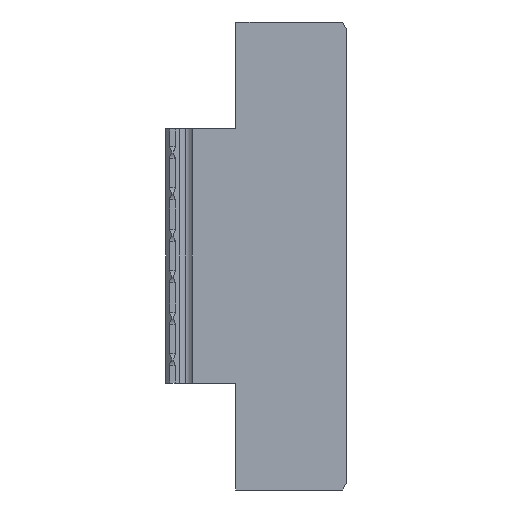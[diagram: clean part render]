
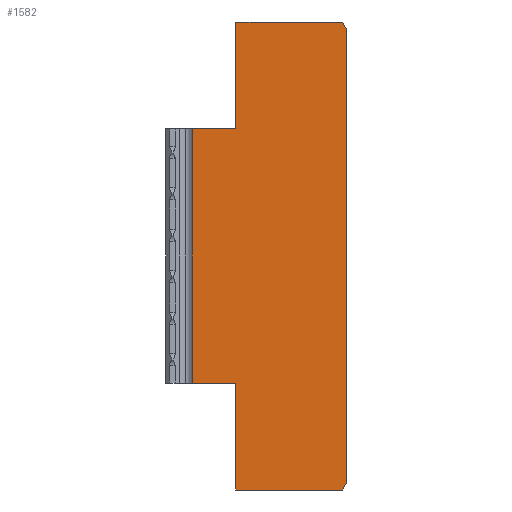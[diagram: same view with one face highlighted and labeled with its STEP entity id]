
A CAD part, left-side view. The second image highlights one B-rep face of the part: STEP entity #1582.
In plain terms, the highlighted planar face has unit normal (-1, 0, 0).
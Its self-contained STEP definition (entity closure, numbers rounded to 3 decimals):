
#13 = ORIENTED_EDGE ( 'NONE', *, *, #12600, .F. ) ;
#82 = PLANE ( 'NONE',  #4792 ) ;
#159 = EDGE_CURVE ( 'NONE', #5211, #3577, #2909, .T. ) ;
#362 = LINE ( 'NONE', #10386, #6213 ) ;
#600 = ORIENTED_EDGE ( 'NONE', *, *, #159, .F. ) ;
#613 = VERTEX_POINT ( 'NONE', #3405 ) ;
#696 = LINE ( 'NONE', #3609, #11416 ) ;
#776 = CARTESIAN_POINT ( 'NONE',  ( -20.5, 1., -21. ) ) ;
#864 = DIRECTION ( 'NONE',  ( 0., 0., 1. ) ) ;
#948 = CARTESIAN_POINT ( 'NONE',  ( -20.5, -22., 35. ) ) ;
#1099 = LINE ( 'NONE', #776, #12622 ) ;
#1355 = LINE ( 'NONE', #3731, #2802 ) ;
#1446 = CARTESIAN_POINT ( 'NONE',  ( -20.5, -5.5, -19. ) ) ;
#1519 = DIRECTION ( 'NONE',  ( 0., 0., -1. ) ) ;
#1566 = ORIENTED_EDGE ( 'NONE', *, *, #8063, .T. ) ;
#1582 = ADVANCED_FACE ( 'NONE', ( #7214 ), #82, .F. ) ;
#2180 = LINE ( 'NONE', #12309, #10118 ) ;
#2732 = VERTEX_POINT ( 'NONE', #10716 ) ;
#2802 = VECTOR ( 'NONE', #10992, 1000. ) ;
#2909 = LINE ( 'NONE', #11820, #6006 ) ;
#3109 = CARTESIAN_POINT ( 'NONE',  ( -20.5, -22., -34. ) ) ;
#3191 = EDGE_CURVE ( 'NONE', #2732, #8011, #362, .T. ) ;
#3395 = DIRECTION ( 'NONE',  ( 0., -1., 0. ) ) ;
#3405 = CARTESIAN_POINT ( 'NONE',  ( -20.5, -5.5, 35. ) ) ;
#3577 = VERTEX_POINT ( 'NONE', #9000 ) ;
#3609 = CARTESIAN_POINT ( 'NONE',  ( -20.5, -5.5, 35. ) ) ;
#3654 = DIRECTION ( 'NONE',  ( 0., 0., 1. ) ) ;
#3731 = CARTESIAN_POINT ( 'NONE',  ( -20.5, -22., 19. ) ) ;
#3813 = VECTOR ( 'NONE', #4319, 1000. ) ;
#4028 = VECTOR ( 'NONE', #11453, 1000. ) ;
#4319 = DIRECTION ( 'NONE',  ( 0., 0.5, 0.866 ) ) ;
#4651 = ORIENTED_EDGE ( 'NONE', *, *, #9631, .F. ) ;
#4792 = AXIS2_PLACEMENT_3D ( 'NONE', #948, #10345, #9303 ) ;
#5154 = DIRECTION ( 'NONE',  ( 0., -1., 0. ) ) ;
#5211 = VERTEX_POINT ( 'NONE', #13190 ) ;
#5503 = LINE ( 'NONE', #10404, #4028 ) ;
#5648 = EDGE_LOOP ( 'NONE', ( #6664, #9018, #7927, #10289, #13, #8366, #7797, #600, #1566, #4651 ) ) ;
#5784 = CARTESIAN_POINT ( 'NONE',  ( -20.5, -22., -19. ) ) ;
#6006 = VECTOR ( 'NONE', #1519, 1000. ) ;
#6112 = DIRECTION ( 'NONE',  ( 0., -0.5, 0.866 ) ) ;
#6131 = VECTOR ( 'NONE', #8944, 1000. ) ;
#6175 = CARTESIAN_POINT ( 'NONE',  ( -20.5, -21.423, -35. ) ) ;
#6213 = VECTOR ( 'NONE', #3395, 1000. ) ;
#6330 = CARTESIAN_POINT ( 'NONE',  ( -20.5, 1., 19. ) ) ;
#6449 = CARTESIAN_POINT ( 'NONE',  ( -20.5, -21.423, 35. ) ) ;
#6594 = EDGE_CURVE ( 'NONE', #9623, #7625, #10671, .T. ) ;
#6664 = ORIENTED_EDGE ( 'NONE', *, *, #9959, .F. ) ;
#6687 = EDGE_CURVE ( 'NONE', #9623, #10114, #1099, .T. ) ;
#7146 = VECTOR ( 'NONE', #6112, 1000. ) ;
#7214 = FACE_OUTER_BOUND ( 'NONE', #5648, .T. ) ;
#7395 = LINE ( 'NONE', #6449, #3813 ) ;
#7625 = VERTEX_POINT ( 'NONE', #1446 ) ;
#7797 = ORIENTED_EDGE ( 'NONE', *, *, #12259, .T. ) ;
#7927 = ORIENTED_EDGE ( 'NONE', *, *, #6687, .F. ) ;
#7964 = CARTESIAN_POINT ( 'NONE',  ( -20.5, -21.423, 35. ) ) ;
#8011 = VERTEX_POINT ( 'NONE', #6175 ) ;
#8063 = EDGE_CURVE ( 'NONE', #5211, #12420, #7395, .T. ) ;
#8366 = ORIENTED_EDGE ( 'NONE', *, *, #3191, .T. ) ;
#8944 = DIRECTION ( 'NONE',  ( 0., -1., 0. ) ) ;
#9000 = CARTESIAN_POINT ( 'NONE',  ( -20.5, -22., -34. ) ) ;
#9018 = ORIENTED_EDGE ( 'NONE', *, *, #9936, .T. ) ;
#9303 = DIRECTION ( 'NONE',  ( 0., 0., -1. ) ) ;
#9591 = CARTESIAN_POINT ( 'NONE',  ( -20.5, -5.5, 19. ) ) ;
#9623 = VERTEX_POINT ( 'NONE', #10177 ) ;
#9631 = EDGE_CURVE ( 'NONE', #613, #12420, #2180, .T. ) ;
#9936 = EDGE_CURVE ( 'NONE', #10372, #10114, #1355, .T. ) ;
#9959 = EDGE_CURVE ( 'NONE', #10372, #613, #696, .T. ) ;
#10114 = VERTEX_POINT ( 'NONE', #6330 ) ;
#10118 = VECTOR ( 'NONE', #5154, 1000. ) ;
#10177 = CARTESIAN_POINT ( 'NONE',  ( -20.5, 1., -19. ) ) ;
#10208 = LINE ( 'NONE', #3109, #7146 ) ;
#10289 = ORIENTED_EDGE ( 'NONE', *, *, #6594, .T. ) ;
#10345 = DIRECTION ( 'NONE',  ( 1., 0., 0. ) ) ;
#10372 = VERTEX_POINT ( 'NONE', #9591 ) ;
#10386 = CARTESIAN_POINT ( 'NONE',  ( -20.5, -22., -35. ) ) ;
#10404 = CARTESIAN_POINT ( 'NONE',  ( -20.5, -5.5, 35. ) ) ;
#10671 = LINE ( 'NONE', #5784, #6131 ) ;
#10716 = CARTESIAN_POINT ( 'NONE',  ( -20.5, -5.5, -35. ) ) ;
#10992 = DIRECTION ( 'NONE',  ( 0., 1., 0. ) ) ;
#11416 = VECTOR ( 'NONE', #3654, 1000. ) ;
#11453 = DIRECTION ( 'NONE',  ( 0., 0., 1. ) ) ;
#11820 = CARTESIAN_POINT ( 'NONE',  ( -20.5, -22., 35. ) ) ;
#12259 = EDGE_CURVE ( 'NONE', #8011, #3577, #10208, .T. ) ;
#12309 = CARTESIAN_POINT ( 'NONE',  ( -20.5, -22., 35. ) ) ;
#12420 = VERTEX_POINT ( 'NONE', #7964 ) ;
#12600 = EDGE_CURVE ( 'NONE', #2732, #7625, #5503, .T. ) ;
#12622 = VECTOR ( 'NONE', #864, 1000. ) ;
#13190 = CARTESIAN_POINT ( 'NONE',  ( -20.5, -22., 34. ) ) ;
